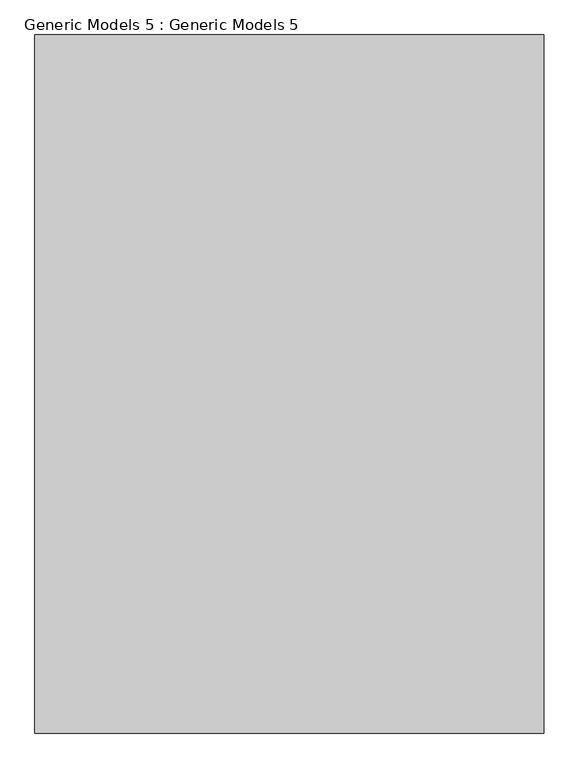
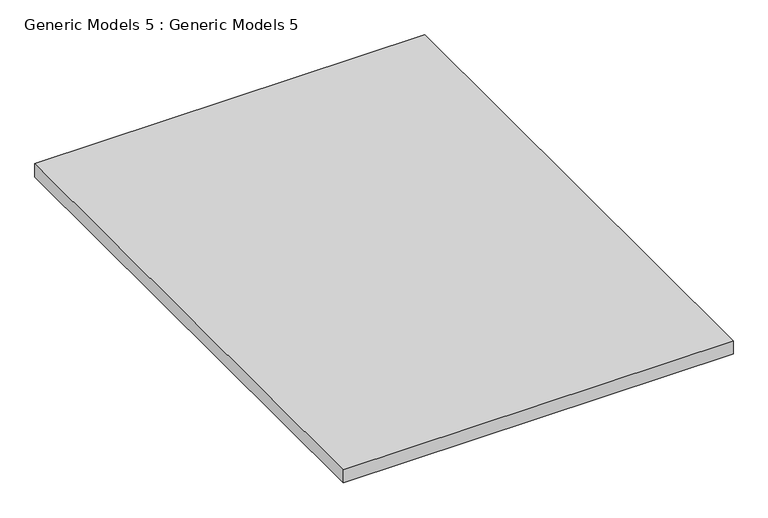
"""IFC4 building model written with IfcOpenShell, lengths in millimetres: proxy geometry, Generic Models 5 : Generic Models 5."""

from ifc_helpers import new_model, si_unit, origin, place, context, project, spatial, faceted_brep, source, transform, mapped, element, save


def generic_models_5_generic_models_5_e771dfb2(model_context):
    return source(origin(), model_context, "Body", "Brep", [
        faceted_brep([(14086.3756115, 9658.6664981, 2800.0), (14086.3756115, 13518.2664981, 2800.0), (11269.5756115, 13518.2664981, 2800.0), (11269.5756115, 9658.6664981, 2800.0), (14086.3756115, 9658.6664981, 2700.0), (11269.5756115, 9658.6664981, 2700.0), (11269.5756115, 13518.2664981, 2700.0), (14086.3756115, 13518.2664981, 2700.0), (13436.3756115, 13118.2664981, 2700.0), (11439.5756115, 13118.2664981, 2700.0), (11439.5756115, 12268.2664981, 2700.0), (13436.3756115, 12268.2664981, 2700.0), (13586.3756115, 12118.2664981, 2700.0), (12489.5756115, 12118.2664981, 2700.0), (12489.5756115, 12078.2664981, 2700.0), (13586.3756115, 12078.2664981, 2700.0), (13436.3756115, 11928.2664981, 2700.0), (11439.5756115, 11928.2664981, 2700.0), (11439.5756115, 9824.6664981, 2700.0), (13436.3756115, 9824.6664981, 2700.0), (11489.5756115, 13068.2664981, 2700.0), (13386.3756115, 13068.2664981, 2700.0), (13386.3756115, 12318.2664981, 2700.0), (11489.5756115, 12318.2664981, 2700.0), (11489.5756115, 11878.2664981, 2700.0), (13386.3756115, 11878.2664981, 2700.0), (13386.3756115, 9874.6664981, 2700.0), (11489.5756115, 9874.6664981, 2700.0), (11439.5756115, 13118.2664981, 2703.0), (13436.3756115, 13118.2664981, 2703.0), (13436.3756115, 12268.2664981, 2703.0), (11439.5756115, 12268.2664981, 2703.0), (13386.3756115, 13068.2664981, 2703.0), (11489.5756115, 13068.2664981, 2703.0), (11489.5756115, 12318.2664981, 2703.0), (13386.3756115, 12318.2664981, 2703.0), (12489.5756115, 12118.2664981, 2703.0), (13586.3756115, 12118.2664981, 2703.0), (13586.3756115, 12078.2664981, 2703.0), (12489.5756115, 12078.2664981, 2703.0), (11439.5756115, 11928.2664981, 2703.0), (13436.3756115, 11928.2664981, 2703.0), (13436.3756115, 9824.6664981, 2703.0), (11439.5756115, 9824.6664981, 2703.0), (13386.3756115, 11878.2664981, 2703.0), (11489.5756115, 11878.2664981, 2703.0), (11489.5756115, 9874.6664981, 2703.0), (13386.3756115, 9874.6664981, 2703.0)], [[[0, 1, 2, 3]], [[4, 5, 6, 7], [8, 9, 10, 11], [12, 13, 14, 15], [16, 17, 18, 19]], [[20, 21, 22, 23]], [[24, 25, 26, 27]], [[1, 0, 4, 7]], [[2, 1, 7, 6]], [[3, 2, 6, 5]], [[0, 3, 5, 4]], [[28, 29, 30, 31], [32, 33, 34, 35]], [[36, 37, 38, 39]], [[40, 41, 42, 43], [44, 45, 46, 47]], [[29, 28, 9, 8]], [[30, 29, 8, 11]], [[31, 30, 11, 10]], [[28, 31, 10, 9]], [[33, 32, 21, 20]], [[34, 33, 20, 23]], [[35, 34, 23, 22]], [[32, 35, 22, 21]], [[37, 36, 13, 12]], [[38, 37, 12, 15]], [[39, 38, 15, 14]], [[36, 39, 14, 13]], [[41, 40, 17, 16]], [[42, 41, 16, 19]], [[43, 42, 19, 18]], [[40, 43, 18, 17]], [[45, 44, 25, 24]], [[46, 45, 24, 27]], [[47, 46, 27, 26]], [[44, 47, 26, 25]]]),
    ])


if __name__ == "__main__":
    model = new_model("IFC4")
    model_context = context("Model", 3, world=origin())
    ifc_project = project(units=[si_unit("LENGTHUNIT", "METRE", prefix="MILLI")], contexts=[model_context])
    site = spatial("IfcSite", under=ifc_project)
    building = spatial("IfcBuilding", under=site)
    placement = place(None, origin())
    generic_models_5_generic_models_5_shape = generic_models_5_generic_models_5_e771dfb2(model_context)
    element("IfcBuildingElementProxy", 1, Name="Generic Models 5 : Generic Models 5", ObjectType="Generic Models 5 : Generic Models 5", at=placement, inside=building, context=model_context, shape_type="MappedRepresentation", body=[
        mapped(generic_models_5_generic_models_5_shape, transform((0.0, 0.0, 0.0), x_axis=(1.0, 0.0, 0.0), y_axis=(0.0, 1.0, 0.0), z_axis=(0.0, 0.0, 1.0))),
    ])
    save(model, "model.ifc")
